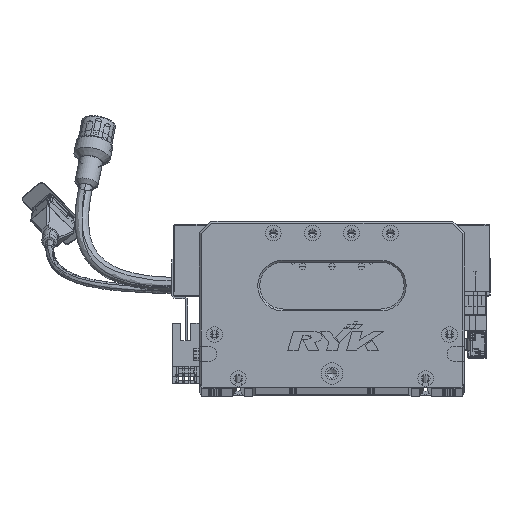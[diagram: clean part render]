
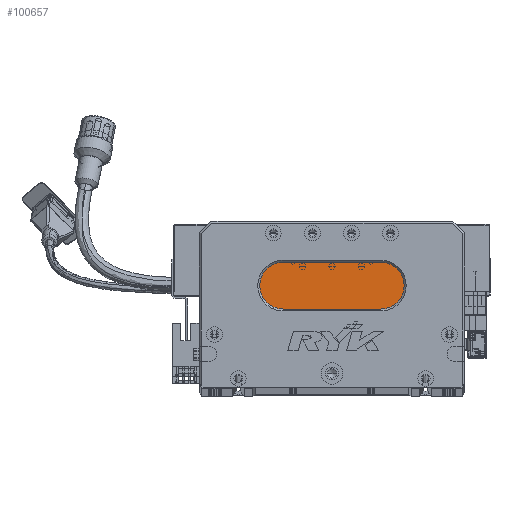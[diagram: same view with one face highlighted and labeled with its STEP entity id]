
A CAD part, top view. The second image highlights one B-rep face of the part: STEP entity #100657.
In plain terms, the highlighted planar face has unit normal (0, 0, 1) as drawn and (0, 0, -1) by its records, which use the part's own axes.
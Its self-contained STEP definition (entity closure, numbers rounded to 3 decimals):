
#3807 = VECTOR ( 'NONE', #12723, 1000. ) ;
#7962 = ORIENTED_EDGE ( 'NONE', *, *, #11484, .T. ) ;
#8071 = LINE ( 'NONE', #59591, #3807 ) ;
#8256 = VERTEX_POINT ( 'NONE', #48335 ) ;
#9329 = CARTESIAN_POINT ( 'NONE',  ( 93., 52., 13. ) ) ;
#9734 = PLANE ( 'NONE',  #78733 ) ;
#11484 = EDGE_CURVE ( 'NONE', #69951, #100713, #19973, .T. ) ;
#12723 = DIRECTION ( 'NONE',  ( 1., 0., 0. ) ) ;
#18247 = DIRECTION ( 'NONE',  ( -1., 0., 0. ) ) ;
#19529 = CARTESIAN_POINT ( 'NONE',  ( 93., 52., 13. ) ) ;
#19973 = CIRCLE ( 'NONE', #34083, 12. ) ;
#25573 = VECTOR ( 'NONE', #47937, 1000. ) ;
#26519 = AXIS2_PLACEMENT_3D ( 'NONE', #97674, #88725, #117122 ) ;
#27991 = DIRECTION ( 'NONE',  ( 0., 0., -1. ) ) ;
#28059 = DIRECTION ( 'NONE',  ( -1., 0., 0. ) ) ;
#32864 = LINE ( 'NONE', #94403, #25573 ) ;
#34083 = AXIS2_PLACEMENT_3D ( 'NONE', #119092, #82113, #63403 ) ;
#36520 = EDGE_CURVE ( 'NONE', #8256, #88893, #8071, .T. ) ;
#37516 = CIRCLE ( 'NONE', #115526, 12. ) ;
#45626 = CARTESIAN_POINT ( 'NONE',  ( 93., 64., 13. ) ) ;
#47937 = DIRECTION ( 'NONE',  ( -1., 0., 0. ) ) ;
#48335 = CARTESIAN_POINT ( 'NONE',  ( 43., 64., 13. ) ) ;
#53910 = CIRCLE ( 'NONE', #26519, 12. ) ;
#58648 = ORIENTED_EDGE ( 'NONE', *, *, #68487, .T. ) ;
#59591 = CARTESIAN_POINT ( 'NONE',  ( 93., 64., 13. ) ) ;
#63403 = DIRECTION ( 'NONE',  ( -1., 0., 0. ) ) ;
#63748 = VERTEX_POINT ( 'NONE', #66684 ) ;
#66684 = CARTESIAN_POINT ( 'NONE',  ( 93., 40., 13. ) ) ;
#68487 = EDGE_CURVE ( 'NONE', #100713, #8256, #53910, .T. ) ;
#69951 = VERTEX_POINT ( 'NONE', #88290 ) ;
#73429 = EDGE_CURVE ( 'NONE', #63748, #69951, #32864, .T. ) ;
#74889 = DIRECTION ( 'NONE',  ( 0., 0., -1. ) ) ;
#78733 = AXIS2_PLACEMENT_3D ( 'NONE', #9329, #27991, #18247 ) ;
#79142 = EDGE_CURVE ( 'NONE', #88893, #63748, #37516, .T. ) ;
#82113 = DIRECTION ( 'NONE',  ( 0., 0., -1. ) ) ;
#82124 = ORIENTED_EDGE ( 'NONE', *, *, #36520, .T. ) ;
#88290 = CARTESIAN_POINT ( 'NONE',  ( 43., 40., 13. ) ) ;
#88725 = DIRECTION ( 'NONE',  ( 0., 0., -1. ) ) ;
#88893 = VERTEX_POINT ( 'NONE', #45626 ) ;
#94403 = CARTESIAN_POINT ( 'NONE',  ( 93., 40., 13. ) ) ;
#94418 = FACE_OUTER_BOUND ( 'NONE', #110219, .T. ) ;
#97674 = CARTESIAN_POINT ( 'NONE',  ( 43., 52., 13. ) ) ;
#99928 = ORIENTED_EDGE ( 'NONE', *, *, #73429, .T. ) ;
#100657 = ADVANCED_FACE ( 'NONE', ( #94418 ), #9734, .T. ) ;
#100713 = VERTEX_POINT ( 'NONE', #111441 ) ;
#109531 = ORIENTED_EDGE ( 'NONE', *, *, #79142, .T. ) ;
#110219 = EDGE_LOOP ( 'NONE', ( #109531, #99928, #7962, #58648, #82124 ) ) ;
#111441 = CARTESIAN_POINT ( 'NONE',  ( 31., 52., 13. ) ) ;
#115526 = AXIS2_PLACEMENT_3D ( 'NONE', #19529, #74889, #28059 ) ;
#117122 = DIRECTION ( 'NONE',  ( -1., 0., 0. ) ) ;
#119092 = CARTESIAN_POINT ( 'NONE',  ( 43., 52., 13. ) ) ;
